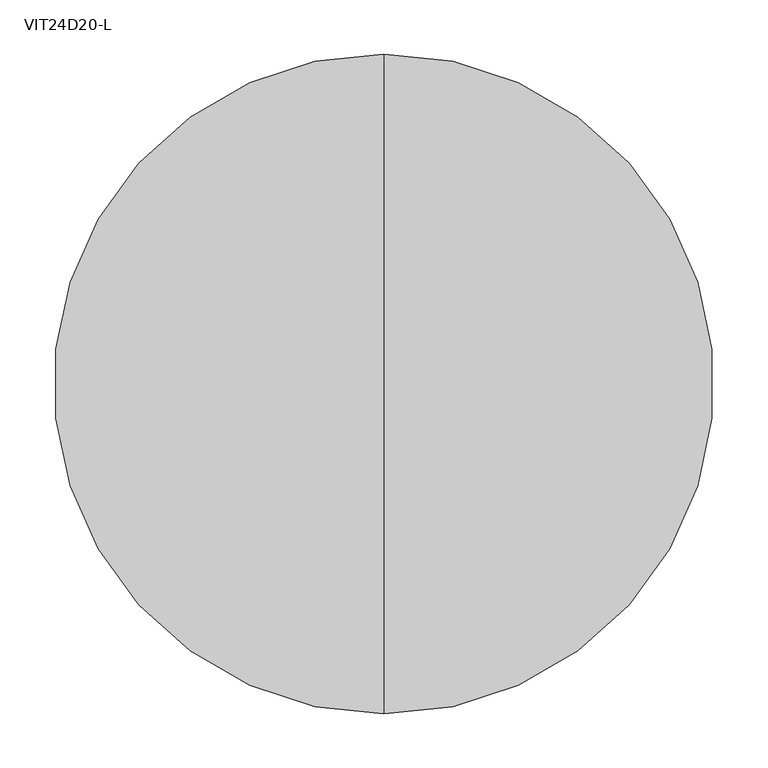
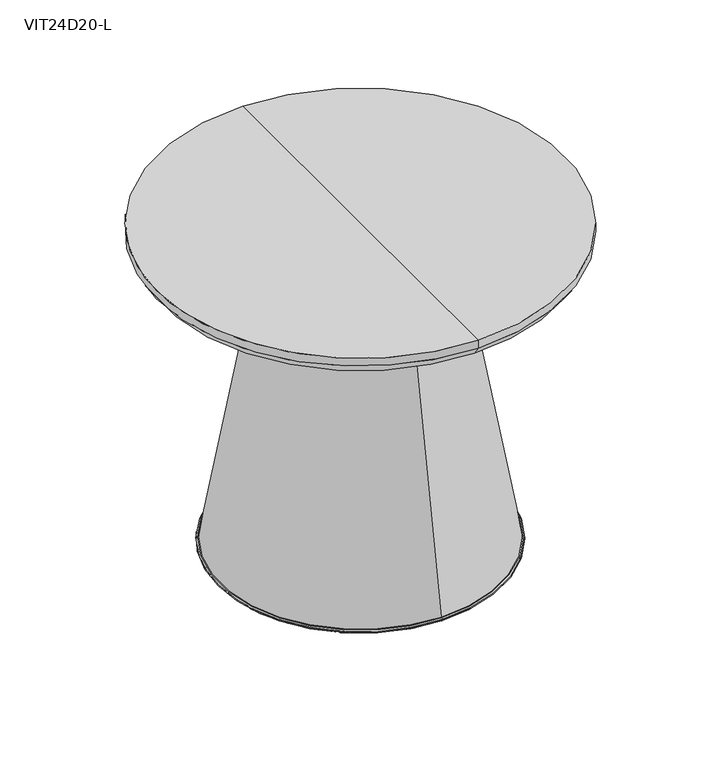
"""IFC4 building model written with IfcOpenShell, lengths in millimetres: furniture geometry, Stance_HC-Villa_Tables : VIT24D20-L."""

from ifc_helpers import new_model, si_unit, point, frame, frame_2d, origin, origin_with_axes, place, context, project, spatial, polyline, circle_curve, trimmed, segment, composite_curve, outline, extrude, source, transform, mapped, element, save
from ifc_brep_helpers import plane_surface, cylinder_surface, revolved_surface, advanced_brep


def vit24d20_l_556a0411(model_context):
    return source(origin(), model_context, "Body", "SolidModel", [
        advanced_brep(
        [(0.0, -125.7805636, 482.6), (0.0, 125.7805636, 482.6), (0.0, 209.2542601, 12.7402931), (0.0, -209.2542601, 12.7402931), (0.0, 0.0, 482.6), (0.0, 0.0, 12.7402931)],
        [
            (0, 1, circle_curve(frame((0.0, 0.0, 482.6), z_axis=(0.0, 0.0, -1.0), x_axis=(0.0, 1.0, 0.0)), 125.7805636)),
            (1, 2),
            (2, 3, circle_curve(frame((0.0, 0.0, 12.7402931), z_axis=(0.0, 0.0, 1.0), x_axis=(0.0, 1.0, 0.0)), 209.2542601)),
            (3, 0),
            (1, 0, circle_curve(frame((0.0, 0.0, 482.6), z_axis=(0.0, 0.0, -1.0), x_axis=(0.0, 1.0, 0.0)), 125.7805636)),
            (3, 2, circle_curve(frame((0.0, 0.0, 12.7402931), z_axis=(0.0, 0.0, 1.0), x_axis=(0.0, 1.0, 0.0)), 209.2542601)),
            (4, 1),
            (0, 4),
            (2, 5),
            (5, 3),
        ],
        [
            revolved_surface(polyline([(0.0, 209.2542601, 12.7402931), (0.0, 125.7805636, 482.6)]), (0.0, 0.0, 482.6), (0.0, 0.0, 1.0)),
            plane_surface(frame((0.0, 0.0, 482.6), z_axis=(0.0, 0.0, 1.0), x_axis=(0.0, 1.0, 0.0))),
            plane_surface(frame((0.0, 0.0, 12.7402931), z_axis=(0.0, 0.0, -1.0), x_axis=(0.0, 1.0, 0.0))),
        ],
        [
            (0, [[1, 2, 3, 4]]),
            (0, [[5, -4, 6, -2]]),
            (1, [[7, -1, 8]]),
            (1, [[-8, -5, -7]]),
            (2, [[-3, 9, 10]]),
            (2, [[-6, -10, -9]]),
        ],
    ),
        advanced_brep(
        [(0.0, -211.1240996, 7.9463926), (0.0, 211.1240996, 7.9463926), (0.0, 209.1775078, 7.9463926), (0.0, -209.1775078, 7.9463926), (0.0, -212.7493546, 9.5716476), (0.0, 212.7493546, 9.5716476), (0.0, -212.7493546, 11.1150382), (0.0, 212.7493546, 11.1150382), (0.0, -211.1240996, 12.7402931), (0.0, 211.1240996, 12.7402931), (0.0, -209.1775078, 12.7402931), (0.0, 209.1775078, 12.7402931)],
        [
            (0, 1, circle_curve(frame((0.0, 0.0, 7.9463926), z_axis=(0.0, 0.0, -1.0), x_axis=(0.0, 1.0, 0.0)), 211.1240996)),
            (1, 2),
            (2, 3, circle_curve(frame((0.0, 0.0, 7.9463926), z_axis=(0.0, 0.0, 1.0), x_axis=(0.0, 1.0, 0.0)), 209.1775078)),
            (3, 0),
            (1, 0, circle_curve(frame((0.0, 0.0, 7.9463926), z_axis=(0.0, 0.0, -1.0), x_axis=(0.0, 1.0, 0.0)), 211.1240996)),
            (3, 2, circle_curve(frame((0.0, 0.0, 7.9463926), z_axis=(0.0, 0.0, 1.0), x_axis=(0.0, 1.0, 0.0)), 209.1775078)),
            (4, 5, circle_curve(frame((0.0, 0.0, 9.5716476), z_axis=(0.0, 0.0, -1.0), x_axis=(0.0, 1.0, 0.0)), 212.7493546)),
            (5, 1),
            (0, 4),
            (5, 4, circle_curve(frame((0.0, 0.0, 9.5716476), z_axis=(0.0, 0.0, -1.0), x_axis=(0.0, 1.0, 0.0)), 212.7493546)),
            (6, 7, circle_curve(frame((0.0, 0.0, 11.1150382), z_axis=(0.0, 0.0, -1.0), x_axis=(0.0, 1.0, 0.0)), 212.7493546)),
            (7, 5),
            (4, 6),
            (7, 6, circle_curve(frame((0.0, 0.0, 11.1150382), z_axis=(0.0, 0.0, -1.0), x_axis=(0.0, 1.0, 0.0)), 212.7493546)),
            (8, 9, circle_curve(frame((0.0, 0.0, 12.7402931), z_axis=(0.0, 0.0, -1.0), x_axis=(0.0, 1.0, 0.0)), 211.1240996)),
            (9, 7),
            (6, 8),
            (9, 8, circle_curve(frame((0.0, 0.0, 12.7402931), z_axis=(0.0, 0.0, -1.0), x_axis=(0.0, 1.0, 0.0)), 211.1240996)),
            (10, 11, circle_curve(frame((0.0, 0.0, 12.7402931), z_axis=(0.0, 0.0, -1.0), x_axis=(0.0, 1.0, 0.0)), 209.1775078)),
            (11, 9),
            (8, 10),
            (11, 10, circle_curve(frame((0.0, 0.0, 12.7402931), z_axis=(0.0, 0.0, -1.0), x_axis=(0.0, 1.0, 0.0)), 209.1775078)),
            (2, 11),
            (10, 3),
        ],
        [
            plane_surface(frame((0.0, 0.0, 7.9463926), z_axis=(0.0, 0.0, -1.0), x_axis=(0.0, 1.0, 0.0))),
            revolved_surface(polyline([(0.0, 211.1240996, 7.9463926), (0.0, 212.7493546, 9.5716476)]), (0.0, 0.0, 0.0), (0.0, 0.0, 1.0)),
            cylinder_surface(frame((0.0, 0.0, 0.0), z_axis=(0.0, 0.0, 1.0), x_axis=(0.0, 1.0, 0.0)), 212.7493546),
            revolved_surface(polyline([(0.0, 212.7493546, 11.1150382), (0.0, 211.1240996, 12.7402931)]), (0.0, 0.0, 0.0), (0.0, 0.0, 1.0)),
            plane_surface(frame((0.0, 0.0, 12.7402931), z_axis=(0.0, 0.0, 1.0), x_axis=(0.0, 1.0, 0.0))),
            revolved_surface(polyline([(0.0, 209.1775078, 12.7402931), (0.0, 209.1775078, 7.9463926)]), (0.0, 0.0, 0.0), (0.0, 0.0, 1.0)),
        ],
        [
            (0, [[1, 2, 3, 4]]),
            (0, [[5, -4, 6, -2]]),
            (1, [[7, 8, -1, 9]]),
            (1, [[10, -9, -5, -8]]),
            (2, [[11, 12, -7, 13]]),
            (2, [[14, -13, -10, -12]]),
            (3, [[15, 16, -11, 17]]),
            (3, [[18, -17, -14, -16]]),
            (4, [[19, 20, -15, 21]]),
            (4, [[22, -21, -18, -20]]),
            (5, [[-3, 23, -19, 24]]),
            (5, [[-6, -24, -22, -23]]),
        ],
    ),
        extrude(outline(composite_curve([segment(trimmed(circle_curve(frame_2d((0.0, 177.7982666)), 20.6375), [point((-20.6375, 177.7982666))], [point((20.6375, 177.7982666))], False, "CARTESIAN"), True, "CONTINUOUS"), segment(trimmed(circle_curve(frame_2d((0.0, 177.7982666)), 20.6375), [point((20.6375, 177.7982666))], [point((-20.6375, 177.7982666))], False, "CARTESIAN"), True, "CONTINUOUS")], self_intersect=False)), origin_with_axes(), (0.0, 0.0, 1.0), 12.7),
        extrude(outline(composite_curve([segment(trimmed(circle_curve(frame_2d((-153.9778157, 88.8991333)), 20.6375), [point((-174.6153157, 88.8991333))], [point((-133.3403157, 88.8991333))], False, "CARTESIAN"), True, "CONTINUOUS"), segment(trimmed(circle_curve(frame_2d((-153.9778157, 88.8991333)), 20.6375), [point((-133.3403157, 88.8991333))], [point((-174.6153157, 88.8991333))], False, "CARTESIAN"), True, "CONTINUOUS")], self_intersect=False)), origin_with_axes(), (0.0, 0.0, 1.0), 12.7),
        extrude(outline(composite_curve([segment(trimmed(circle_curve(frame_2d((153.9778157, 88.8991333)), 20.6375), [point((133.3403157, 88.8991333))], [point((174.6153157, 88.8991333))], False, "CARTESIAN"), True, "CONTINUOUS"), segment(trimmed(circle_curve(frame_2d((153.9778157, 88.8991333)), 20.6375), [point((174.6153157, 88.8991333))], [point((133.3403157, 88.8991333))], False, "CARTESIAN"), True, "CONTINUOUS")], self_intersect=False)), origin_with_axes(), (0.0, 0.0, 1.0), 12.7),
        extrude(outline(composite_curve([segment(trimmed(circle_curve(frame_2d((0.0, -177.7982666)), 20.6375), [point((-20.6375, -177.7982666))], [point((20.6375, -177.7982666))], False, "CARTESIAN"), True, "CONTINUOUS"), segment(trimmed(circle_curve(frame_2d((0.0, -177.7982666)), 20.6375), [point((20.6375, -177.7982666))], [point((-20.6375, -177.7982666))], False, "CARTESIAN"), True, "CONTINUOUS")], self_intersect=False)), origin_with_axes(), (0.0, 0.0, 1.0), 12.7),
        extrude(outline(composite_curve([segment(trimmed(circle_curve(frame_2d((-153.9778157, -88.8991333)), 20.6375), [point((-174.6153157, -88.8991333))], [point((-133.3403157, -88.8991333))], False, "CARTESIAN"), True, "CONTINUOUS"), segment(trimmed(circle_curve(frame_2d((-153.9778157, -88.8991333)), 20.6375), [point((-133.3403157, -88.8991333))], [point((-174.6153157, -88.8991333))], False, "CARTESIAN"), True, "CONTINUOUS")], self_intersect=False)), origin_with_axes(), (0.0, 0.0, 1.0), 12.7),
        extrude(outline(composite_curve([segment(trimmed(circle_curve(frame_2d((153.9778157, -88.8991333)), 20.6375), [point((133.3403157, -88.8991333))], [point((174.6153157, -88.8991333))], False, "CARTESIAN"), True, "CONTINUOUS"), segment(trimmed(circle_curve(frame_2d((153.9778157, -88.8991333)), 20.6375), [point((174.6153157, -88.8991333))], [point((133.3403157, -88.8991333))], False, "CARTESIAN"), True, "CONTINUOUS")], self_intersect=False)), origin_with_axes(), (0.0, 0.0, 1.0), 12.7),
        advanced_brep(
        [(0.0, -304.8, 508.0), (0.0, 304.8, 508.0), (0.0, 304.8, 495.6316493), (0.0, -304.8, 495.6316493), (0.0, 0.0, 508.0), (0.0, -294.8418974, 481.4100049), (0.0, 294.8418974, 481.4100049), (0.0, 0.0, 481.4100049)],
        [
            (0, 1, circle_curve(frame((0.0, 0.0, 508.0), z_axis=(0.0, 0.0, -1.0), x_axis=(0.0, 1.0, 0.0)), 304.8)),
            (1, 2),
            (2, 3, circle_curve(frame((0.0, 0.0, 495.6316493), z_axis=(0.0, 0.0, 1.0), x_axis=(0.0, 1.0, 0.0)), 304.8)),
            (3, 0),
            (1, 0, circle_curve(frame((0.0, 0.0, 508.0), z_axis=(0.0, 0.0, -1.0), x_axis=(0.0, 1.0, 0.0)), 304.8)),
            (3, 2, circle_curve(frame((0.0, 0.0, 495.6316493), z_axis=(0.0, 0.0, 1.0), x_axis=(0.0, 1.0, 0.0)), 304.8)),
            (4, 1),
            (0, 4),
            (5, 6, circle_curve(frame((0.0, 0.0, 481.4100049), z_axis=(0.0, 0.0, -1.0), x_axis=(0.0, 1.0, 0.0)), 294.8418974)),
            (6, 7),
            (7, 5),
            (6, 5, circle_curve(frame((0.0, 0.0, 481.4100049), z_axis=(0.0, 0.0, -1.0), x_axis=(0.0, 1.0, 0.0)), 294.8418974)),
            (2, 6),
            (5, 3),
        ],
        [
            cylinder_surface(frame((0.0, 0.0, 508.0), z_axis=(0.0, 0.0, 1.0), x_axis=(0.0, 1.0, 0.0)), 304.8),
            plane_surface(frame((0.0, 0.0, 508.0), z_axis=(0.0, 0.0, 1.0), x_axis=(0.0, 1.0, 0.0))),
            plane_surface(frame((0.0, 0.0, 481.4100049), z_axis=(0.0, 0.0, -1.0), x_axis=(0.0, 1.0, 0.0))),
            revolved_surface(polyline([(0.0, 294.8418974, 481.4100049), (0.0, 304.8, 495.6316493)]), (0.0, 0.0, 508.0), (0.0, 0.0, 1.0)),
        ],
        [
            (0, [[1, 2, 3, 4]]),
            (0, [[5, -4, 6, -2]]),
            (1, [[7, -1, 8]]),
            (1, [[-8, -5, -7]]),
            (2, [[9, 10, 11]]),
            (2, [[12, -11, -10]]),
            (3, [[-3, 13, -9, 14]]),
            (3, [[-6, -14, -12, -13]]),
        ],
    ),
    ])


if __name__ == "__main__":
    model = new_model("IFC4")
    model_context = context("Model", 3, world=origin())
    ifc_project = project(units=[si_unit("LENGTHUNIT", "METRE", prefix="MILLI")], contexts=[model_context])
    site = spatial("IfcSite", under=ifc_project)
    building = spatial("IfcBuilding", under=site)
    placement = place(None, origin())
    vit24d20_l_shape = vit24d20_l_556a0411(model_context)
    element("IfcFurniture", 1, ObjectType="Stance_HC-Villa_Tables : VIT24D20-L", at=placement, inside=building, context=model_context, shape_type="MappedRepresentation", body=[
        mapped(vit24d20_l_shape, transform((0.0, 0.0, 0.0), x_axis=(1.0, 0.0, 0.0), y_axis=(0.0, 1.0, 0.0), z_axis=(0.0, 0.0, 1.0))),
    ])
    save(model, "model.ifc")
